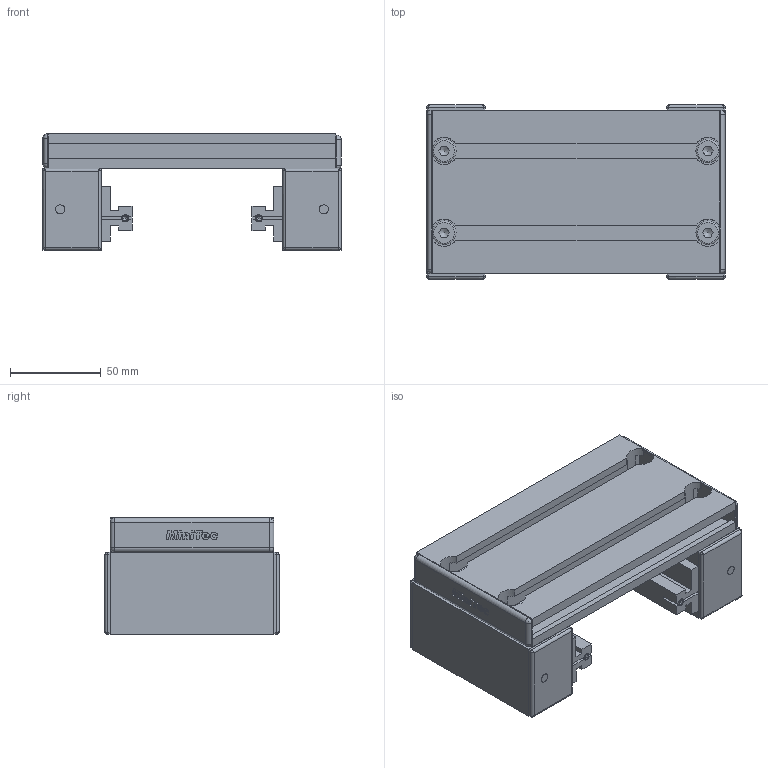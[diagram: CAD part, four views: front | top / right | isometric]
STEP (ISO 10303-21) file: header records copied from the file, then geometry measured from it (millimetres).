
FILE_DESCRIPTION((''),'2;1');
FILE_NAME('C:\Andys Backup Data\WEBSITE\DREAMWEAVER\MiniTec\Products\Linear_System_LG\CAD\Step\28.0193 SLIDE LWN 32X45-90.stp','2013-08-29T11:37:42',('Admin'),(''),'Autodesk Inventor 2012','Autodesk Inventor 2012','');
FILE_SCHEMA(('AUTOMOTIVE_DESIGN { 1 0 10303 214 1 1 1 1 }'));
Length unit declared in the file: millimetre
Products named in the file (13): 28.0193 SLIDE LWN 32X45-90; 28.0224 SLIDE LWN 32X45-90 90X19; 28.0126 SLIDE 45X32; 22.1014_1 END CAP 90X19 GRAY; 22.1095 SLIDE RAIL LN; 22.1095_1 SLIDE RAIL LN; 21.1314 M4X8 SET SCREW CONE POINT DIN 914; 21.1302 M5x16 Set Screw Flat Point DIN 913; 21.1200 M8 x 16; 21.1351 M8 SQUARE NUT; 22.1003_1 END CAP 45x32 Z Gray; 22.1003_1 END CAP 45X32 GRAY; END CAP DOWEL GRAY
Assembly tree (26 placements, depth 3):
  28.0193 SLIDE LWN 32X45-90
    28.0224 SLIDE LWN 32X45-90 90X19
    28.0126 SLIDE 45X32  x2
    22.1014_1 END CAP 90X19 GRAY  x2
    22.1095 SLIDE RAIL LN  x2
      22.1095_1 SLIDE RAIL LN
      21.1314 M4X8 SET SCREW CONE POINT DIN 914
      21.1302 M5x16 Set Screw Flat Point DIN 913
    21.1200 M8 x 16  x4
    21.1351 M8 SQUARE NUT  x4
    22.1003_1 END CAP 45x32 Z Gray  x4
      22.1003_1 END CAP 45X32 GRAY
      END CAP DOWEL GRAY
Bounding box: 164 x 96 x 64 mm (x, y, z)
Volume: 326013.4 mm3; surface area: 213603.7 mm2
Topology: 31 solids, 31 shells, 1078 faces, 2700 edges, 1740 vertices
Faces by surface type: plane 720, cylinder 266, cone 40, bspline 28, torus 16, sphere 8
Full cylindrical faces by diameter (mm): 4 x4, 5 x12, 7 x4, 7.65 x8, 7.9 x8, 8 x8, 8.65 x4, 9 x4, 9.9 x8, 11.25 x16, 12.25 x8, 13 x4
Entity records: 16026 total; most frequent: CARTESIAN_POINT 2973, DIRECTION 2658, ORIENTED_EDGE 2580, EDGE_CURVE 1290, VECTOR 938, LINE 938, VERTEX_POINT 869, AXIS2_PLACEMENT_3D 860
